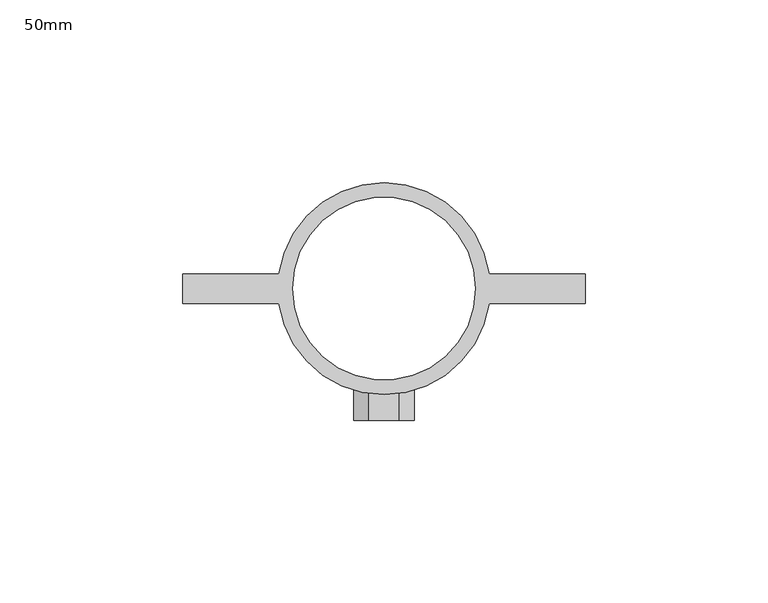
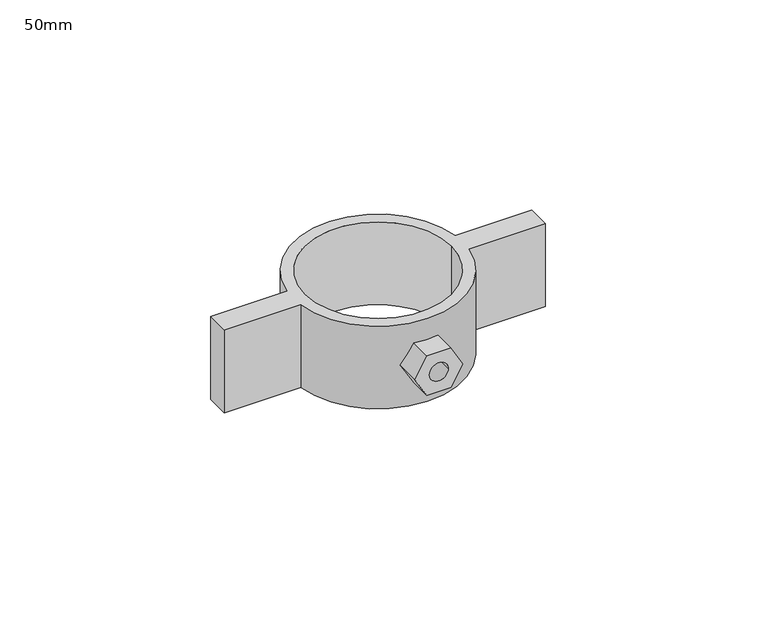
"""IFC4 building model written with IfcOpenShell, lengths in millimetres: pipe fitting geometry, AmancoWavin_AccesóriosdoTubo_QSSuporteDeslizanteVertical : 50mm."""

import ifcopenshell
import ifcopenshell.guid

model = None  # the IFC model being written
_history = None  # IfcOwnerHistory: only IFC2X3 demands one
_inside = {}  # id of a spatial element -> (the spatial element, [elements in it])
_under = {}  # id of a project, library or spatial element -> (it, [spatial elements below it])
_declared = {}  # id of a project -> (the project, [libraries it declares])
_typed = {}  # id of a type object -> (the type object, [elements of that type])
_made_of = {}  # id of a material, layer set ... -> (it, [elements and type objects made of it])


def new_model(schema):
    """Start an empty IFC model of exactly this schema.

    Asked for "IFC4X3", IfcOpenShell would pick the latest addendum, in which some entities
    have other attributes; the version numbers below select the first issue.
    IFC2X3 requires an IfcOwnerHistory on every rooted entity: one is made here for all.
    """
    global model, _history
    if schema == "IFC4X3":
        model = ifcopenshell.file(schema_version=(4, 3, 0, 0))
    else:
        model = ifcopenshell.file(schema=schema)
    _inside.clear()
    _under.clear()
    _declared.clear()
    _typed.clear()
    _made_of.clear()
    _history = None
    if model.schema == "IFC2X3":
        org = make("IfcOrganization", Name="unknown")
        user = make(
            "IfcPersonAndOrganization",
            ThePerson=make("IfcPerson", FamilyName="unknown"),
            TheOrganization=org,
        )
        app = make(
            "IfcApplication",
            ApplicationDeveloper=org,
            Version="unknown",
            ApplicationFullName="unknown",
            ApplicationIdentifier="unknown",
        )
        _history = make(
            "IfcOwnerHistory",
            OwningUser=user,
            OwningApplication=app,
            ChangeAction="ADDED",
            CreationDate=0,
        )
    return model


def make(cls, **values):
    """One entity of the class cls with the attributes given. An attribute that is None is left unset."""
    return model.create_entity(
        cls, **{name: value for name, value in values.items() if value is not None}
    )


def rooted(cls, **values):
    """An entity with a GlobalId (a new one), such as an element, a storey or a relation."""
    return make(cls, GlobalId=ifcopenshell.guid.new(), OwnerHistory=_history, **values)


def si_unit(unit_type, name, prefix=None):
    """IfcSIUnit, for example si_unit("LENGTHUNIT", "METRE", prefix="MILLI")."""
    return make("IfcSIUnit", UnitType=unit_type, Prefix=prefix, Name=name)


def assignment(units):
    """IfcUnitAssignment: the units of a project."""
    return None if units is None else make("IfcUnitAssignment", Units=units)


def point(xyz):
    """IfcCartesianPoint."""
    return None if xyz is None else make("IfcCartesianPoint", Coordinates=xyz)


def direction(xyz):
    """IfcDirection."""
    return None if xyz is None else make("IfcDirection", DirectionRatios=xyz)


def frame(location, z_axis=None, x_axis=None):
    """IfcAxis2Placement3D, a coordinate frame: its origin and axes. An axis left out is left unset."""
    return make(
        "IfcAxis2Placement3D",
        Location=point(location),
        Axis=direction(z_axis),
        RefDirection=direction(x_axis),
    )


def frame_2d(location, x_axis=None):
    """IfcAxis2Placement2D, a coordinate frame in the plane: its origin and x axis."""
    return make(
        "IfcAxis2Placement2D", Location=point(location), RefDirection=direction(x_axis)
    )


def origin():
    """The frame at (0, 0, 0) with its axes left unset."""
    return frame((0.0, 0.0, 0.0))


def origin_2d():
    """The frame at (0, 0) in the plane with its x axis left unset."""
    return frame_2d((0.0, 0.0))


def place(relative_to, where):
    """IfcLocalPlacement: puts the frame where relative to a parent placement (None: the world)."""
    return make(
        "IfcLocalPlacement", PlacementRelTo=relative_to, RelativePlacement=where
    )


def context(
    kind, dimensions, precision=None, world=None, true_north=None, identifier=None
):
    """IfcGeometricRepresentationContext, for example the 3D "Model" context."""
    return make(
        "IfcGeometricRepresentationContext",
        ContextIdentifier=identifier,
        ContextType=kind,
        CoordinateSpaceDimension=dimensions,
        Precision=precision,
        WorldCoordinateSystem=world,
        TrueNorth=true_north,
    )


def project(units=None, contexts=None):
    """IfcProject with its units and contexts."""
    return rooted(
        "IfcProject",
        Name="project",
        RepresentationContexts=contexts,
        UnitsInContext=assignment(units),
    )


def spatial(cls, under=None, at=None, **own):
    """A site, building, storey or space (cls), placed at a placement, below another one or the project."""
    s = rooted(cls, ObjectPlacement=at, **own)
    if under is not None:
        _under.setdefault(under.id(), (under, []))[1].append(s)
    return s


def polyline(points):
    """IfcPolyline through the points."""
    return make("IfcPolyline", Points=[point(p) for p in points])


def circle_curve(where, radius):
    """IfcCircle in the frame where."""
    return make("IfcCircle", Position=where, Radius=radius)


def trimmed(basis, trim1, trim2, sense, master):
    """IfcTrimmedCurve: the piece of a basis curve between two trims."""
    return make(
        "IfcTrimmedCurve",
        BasisCurve=basis,
        Trim1=trim1,
        Trim2=trim2,
        SenseAgreement=sense,
        MasterRepresentation=master,
    )


def segment(curve, same_sense, transition):
    """IfcCompositeCurveSegment."""
    return make(
        "IfcCompositeCurveSegment",
        Transition=transition,
        SameSense=same_sense,
        ParentCurve=curve,
    )


def composite_curve(segments, self_intersect=None):
    """IfcCompositeCurve: segments joined end to end."""
    return make("IfcCompositeCurve", Segments=segments, SelfIntersect=self_intersect)


def outline(outer, holes=None, kind="AREA"):
    """IfcArbitraryClosedProfileDef: a profile drawn as a closed curve; with holes, ...WithVoids."""
    if holes is None:
        return make("IfcArbitraryClosedProfileDef", ProfileType=kind, OuterCurve=outer)
    return make(
        "IfcArbitraryProfileDefWithVoids",
        ProfileType=kind,
        OuterCurve=outer,
        InnerCurves=holes,
    )


def extrude(swept, where, along, depth):
    """IfcExtrudedAreaSolid: the profile swept, set in the frame where, extruded along a direction by depth."""
    return make(
        "IfcExtrudedAreaSolid",
        SweptArea=swept,
        Position=where,
        ExtrudedDirection=direction(along),
        Depth=depth,
    )


def shape(context_of_items, identifier, shape_type, items):
    """IfcShapeRepresentation: the items that make up one representation, for example the "Body"."""
    return make(
        "IfcShapeRepresentation",
        ContextOfItems=context_of_items,
        RepresentationIdentifier=identifier,
        RepresentationType=shape_type,
        Items=items,
    )


def source(mapping_origin, context_of_items, identifier, shape_type, items):
    """IfcRepresentationMap: a shape defined once, which mapped items show again and again."""
    return make(
        "IfcRepresentationMap",
        MappingOrigin=mapping_origin,
        MappedRepresentation=shape(context_of_items, identifier, shape_type, items),
    )


def transform(
    local_origin,
    x_axis=None,
    y_axis=None,
    z_axis=None,
    scale=None,
    scale2=None,
    scale3=None,
    uniform=True,
):
    """IfcCartesianTransformationOperator3D, or its non-uniform kind. x_axis, y_axis, z_axis: its Axis1, 2, 3."""
    if uniform:
        return make(
            "IfcCartesianTransformationOperator3D",
            Axis1=direction(x_axis),
            Axis2=direction(y_axis),
            LocalOrigin=point(local_origin),
            Scale=scale,
            Axis3=direction(z_axis),
        )
    return make(
        "IfcCartesianTransformationOperator3DnonUniform",
        Axis1=direction(x_axis),
        Axis2=direction(y_axis),
        LocalOrigin=point(local_origin),
        Scale=scale,
        Axis3=direction(z_axis),
        Scale2=scale2,
        Scale3=scale3,
    )


def mapped(mapping_source, mapping_target):
    """IfcMappedItem: shows the shape of a source again, moved by a transform."""
    return make(
        "IfcMappedItem", MappingSource=mapping_source, MappingTarget=mapping_target
    )


def made_of(thing, what):
    """Note that an element or type object is made of a material, layer set ...; save() writes the relation."""
    if what is not None:
        _made_of.setdefault(what.id(), (what, []))[1].append(thing)
    return thing


def element(
    cls,
    number,
    at=None,
    inside=None,
    cuts=None,
    type_object=None,
    material=None,
    context=None,
    identifier="Body",
    shape_type=None,
    held_by="IfcProductDefinitionShape",
    body=None,
    shapes=None,
    **own,
):
    """One element of the class cls, such as IfcWall. Its Tag is "e" and its number.

    at: its placement. inside: the storey or other place that contains it. cuts: it is an
    opening in that element (IfcRelVoidsElement). A single representation is given by context,
    identifier, shape_type and body (its items); several are given by shapes. held_by: the class
    of the entity that holds the representations. save() writes the other relations.
    """
    e = rooted(cls, Tag="e%d" % number, ObjectPlacement=at, **own)
    if body is not None:
        shapes = [shape(context, identifier, shape_type, body)]
    if shapes is not None:
        e.Representation = make(held_by, Representations=shapes)
    if inside is not None:
        _inside.setdefault(inside.id(), (inside, []))[1].append(e)
    if cuts is not None:
        rooted(
            "IfcRelVoidsElement", RelatingBuildingElement=cuts, RelatedOpeningElement=e
        )
    if type_object is not None:
        _typed.setdefault(type_object.id(), (type_object, []))[1].append(e)
    return made_of(e, material)


def aggregate(whole, parts):
    """IfcRelAggregates: a whole, such as a stair, and the parts it consists of."""
    return rooted("IfcRelAggregates", RelatingObject=whole, RelatedObjects=parts)


def save(model, path):
    """Write the relations noted so far, then the file.

    IfcRelAggregates (storeys below a building ...), IfcRelContainedInSpatialStructure (elements
    in a storey), IfcRelDefinesByType, IfcRelAssociatesMaterial and IfcRelDeclares: one each for
    every whole, place, type object, material and project.
    """
    for whole, parts in _under.values():
        aggregate(whole, parts)
    for where, things in _inside.values():
        rooted(
            "IfcRelContainedInSpatialStructure",
            RelatedElements=things,
            RelatingStructure=where,
        )
    for kind, things in _typed.values():
        rooted("IfcRelDefinesByType", RelatedObjects=things, RelatingType=kind)
    for what, things in _made_of.values():
        rooted("IfcRelAssociatesMaterial", RelatedObjects=things, RelatingMaterial=what)
    for by, libraries in _declared.values():
        rooted("IfcRelDeclares", RelatingContext=by, RelatedDefinitions=libraries)
    model.write(path)


def pipe_fitting_50mm_364481d4(model_context):
    return source(origin(), model_context, "Body", "SweptSolid", [
        extrude(outline(polyline([(0.0, -8.2561088), (-7.15, -4.1280544), (-7.15, 4.1280544), (0.0, 8.2561088), (7.15, 4.1280544), (7.15, -4.1280544), (0.0, -8.2561088)]), holes=[composite_curve([segment(trimmed(circle_curve(origin_2d(), 3.25), [point((0.0, -3.25))], [point((0.0, 3.25))], True, "CARTESIAN"), True, "CONTINUOUS"), segment(trimmed(circle_curve(origin_2d(), 3.25), [point((0.0, 3.25))], [point((0.0, -3.25))], True, "CARTESIAN"), True, "CONTINUOUS")], self_intersect=False)]), frame((0.0, -36.0, 0.0), z_axis=(0.0, 1.0, 0.0), x_axis=(0.0, 0.0, 1.0)), (0.0, 0.0, 1.0), 11.0),
        extrude(outline(composite_curve([segment(trimmed(circle_curve(origin_2d(), 29.0), [point((28.7228132, -4.0))], [point((-28.7228132, -4.0))], False, "CARTESIAN"), True, "CONTINUOUS"), segment(polyline([(-28.7228132, -4.0), (-55.0, -4.0), (-55.0, 4.0), (-28.7228132, 4.0)]), True, "CONTINUOUS"), segment(trimmed(circle_curve(origin_2d(), 29.0), [point((-28.7228132, 4.0))], [point((28.7228132, 4.0))], False, "CARTESIAN"), True, "CONTINUOUS"), segment(polyline([(28.7228132, 4.0), (55.0, 4.0), (55.0, -4.0), (28.7228132, -4.0)]), True, "CONTINUOUS")], self_intersect=False), holes=[composite_curve([segment(trimmed(circle_curve(origin_2d(), 25.0), [point((-25.0, 0.0))], [point((25.0, 0.0))], True, "CARTESIAN"), True, "CONTINUOUS"), segment(trimmed(circle_curve(origin_2d(), 25.0), [point((25.0, 0.0))], [point((-25.0, 0.0))], True, "CARTESIAN"), True, "CONTINUOUS")], self_intersect=False)]), frame((0.0, 0.0, -15.0), z_axis=(0.0, 0.0, 1.0), x_axis=(1.0, 0.0, 0.0)), (0.0, 0.0, 1.0), 30.0),
    ])


if __name__ == "__main__":
    model = new_model("IFC4")
    model_context = context("Model", 3, world=origin())
    ifc_project = project(units=[si_unit("LENGTHUNIT", "METRE", prefix="MILLI")], contexts=[model_context])
    site = spatial("IfcSite", under=ifc_project)
    building = spatial("IfcBuilding", under=site)
    placement = place(None, origin())
    pipe_fitting_50mm_shape = pipe_fitting_50mm_364481d4(model_context)
    element("IfcPipeFitting", 1, ObjectType="AmancoWavin_AccesóriosdoTubo_QSSuporteDeslizanteVertical : 50mm", at=placement, inside=building, context=model_context, shape_type="MappedRepresentation", body=[
        mapped(pipe_fitting_50mm_shape, transform((0.0, 0.0, 0.0), x_axis=(1.0, 0.0, 0.0), y_axis=(0.0, 1.0, 0.0), z_axis=(0.0, 0.0, 1.0))),
    ])
    save(model, "model.ifc")
